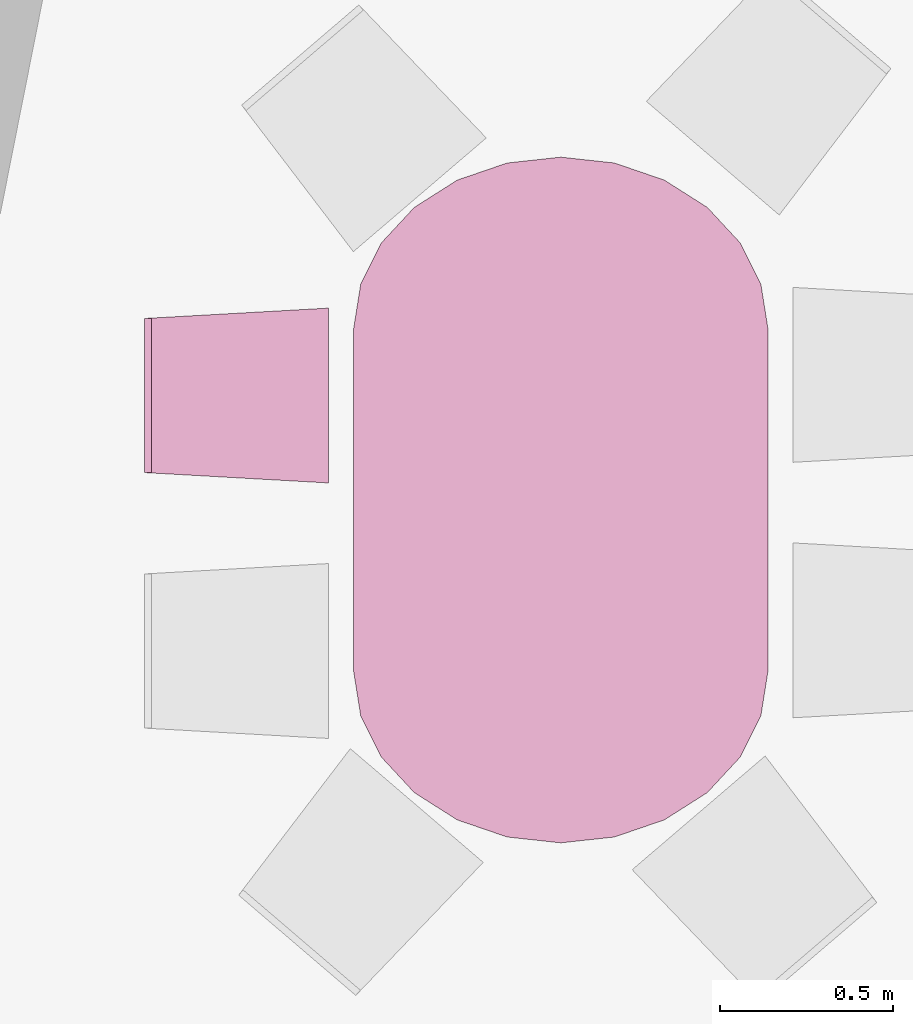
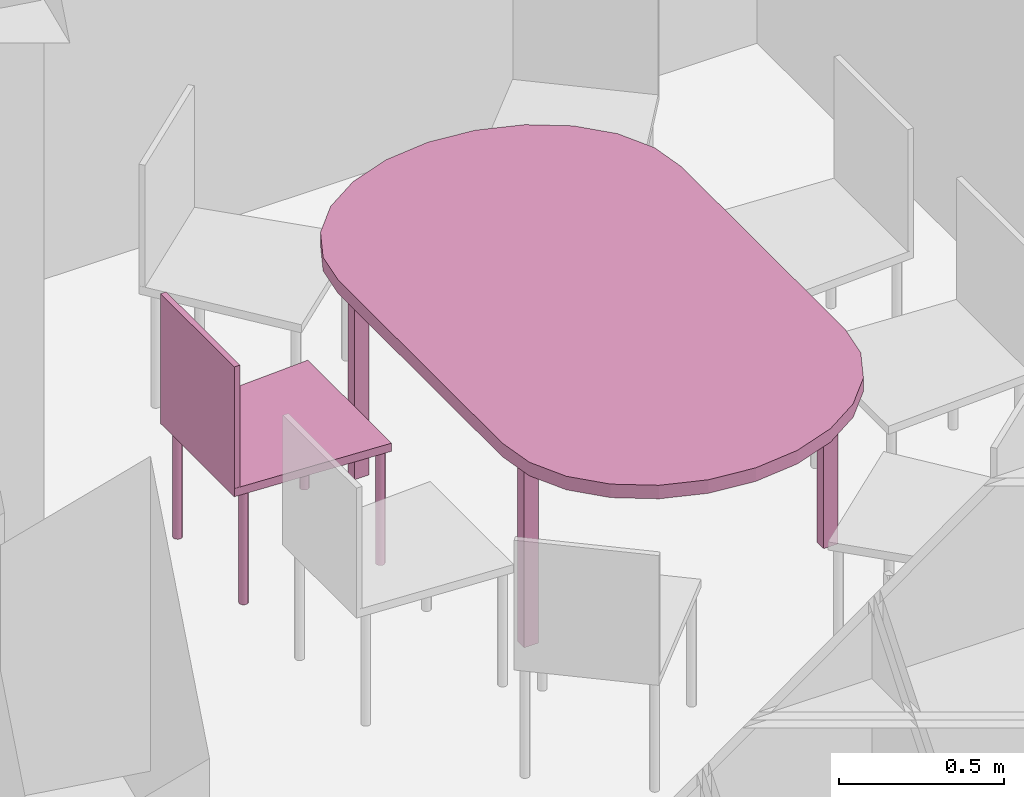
"""IFC4 building model written with IfcOpenShell, lengths in metres."""

from ifc_helpers import new_model, entity, si_unit, converted_unit, derived_unit, frame, origin, place, context, subcontext, project, spatial, faceted_brep, element, save


model = new_model("IFC4")

# Units and contexts
model_context = context("Model", 3, precision=1e-05, world=origin())
body_context = subcontext(model_context, "Body", "Model", "MODEL_VIEW")
ifc_project = project(units=[si_unit("LENGTHUNIT", "METRE"), si_unit("AREAUNIT", "SQUARE_METRE"), si_unit("VOLUMEUNIT", "CUBIC_METRE"), si_unit("MASSUNIT", "GRAM", prefix="KILO"), converted_unit("PLANEANGLEUNIT", "DEGREE", entity("IfcPlaneAngleMeasure", 0.0174532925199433), si_unit("PLANEANGLEUNIT", "RADIAN"), dimensions=[0, 0, 0, 0, 0, 0, 0]), derived_unit("THERMALTRANSMITTANCEUNIT", [(si_unit("POWERUNIT", "WATT"), 1), (si_unit("THERMODYNAMICTEMPERATUREUNIT", "KELVIN"), -1), (si_unit("LENGTHUNIT", "METRE"), -2)]), derived_unit("VOLUMETRICFLOWRATEUNIT", [(si_unit("LENGTHUNIT", "METRE"), 3), (converted_unit("TIMEUNIT", "hour", entity("IfcTimeMeasure", 3600.0), si_unit("TIMEUNIT", "SECOND"), dimensions=[0, 0, 1, 0, 0, 0, 0]), -1), (si_unit("LENGTHUNIT", "METRE"), -1)])], contexts=[model_context])

# Building, storeys
building_placement = place(None, origin())
building = spatial("IfcBuilding", under=ifc_project, at=building_placement, Name="HABITATGE PLURIFAMILIAR", CompositionType="ELEMENT")
storey_1_placement = place(building_placement, frame((0.0, 0.0, 18.29)))
storey_1 = spatial("IfcBuildingStorey", under=building, at=storey_1_placement, Name="PLANTA CINQUENA", CompositionType="ELEMENT", Elevation=18.29)
storey_2_placement = place(storey_1_placement, frame((0.0, 0.0, 15.28)))
storey_2 = spatial("IfcBuildingStorey", under=storey_1, at=storey_2_placement, Name="NOU", CompositionType="PARTIAL")

# Furniture
furniture_1_placement = place(storey_2_placement, frame((402.074235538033, 25.1953221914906, -15.2762411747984)))
element("IfcFurniture", 1, at=furniture_1_placement, inside=storey_2, Name="Taula 200X120_P5", context=body_context, shape_type="Brep", body=[
    faceted_brep([(0.0, 1.48958895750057, 0.7), (0.0, 0.496502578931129, 0.7), (0.0204428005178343, 0.367998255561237, 0.7), (0.0803780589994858, 0.248251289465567, 0.7), (0.175721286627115, 0.14542223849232, 0.7), (0.299974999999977, 0.066518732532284, 0.7), (0.444671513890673, 0.0169179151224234, 0.7), (0.599949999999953, 0.0, 0.7), (0.755228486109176, 0.0169179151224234, 0.7), (0.89992499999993, 0.066518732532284, 0.7), (1.02417871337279, 0.14542223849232, 0.7), (1.11952194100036, 0.248251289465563, 0.7), (1.17945719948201, 0.367998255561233, 0.7), (1.19989999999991, 0.496502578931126, 0.7), (1.19989999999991, 1.48958895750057, 0.7), (1.17945719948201, 1.61809328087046, 0.7), (1.11952194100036, 1.73784024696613, 0.7), (1.02417871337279, 1.84066929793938, 0.7), (0.89992499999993, 1.91957280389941, 0.7), (0.755228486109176, 1.96917362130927, 0.7), (0.599949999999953, 1.9860915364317, 0.7), (0.444671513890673, 1.96917362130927, 0.7), (0.299974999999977, 1.91957280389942, 0.7), (0.175721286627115, 1.84066929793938, 0.7), (0.0803780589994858, 1.73784024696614, 0.7), (0.0204428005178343, 1.61809328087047, 0.7), (1.19989999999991, 1.48958895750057, 0.75), (1.19989999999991, 0.496502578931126, 0.75), (1.17945719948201, 0.367998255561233, 0.75), (1.11952194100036, 0.248251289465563, 0.75), (1.02417871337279, 0.14542223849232, 0.75), (0.89992499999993, 0.066518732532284, 0.75), (0.755228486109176, 0.0169179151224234, 0.75), (0.599949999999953, 0.0, 0.75), (0.444671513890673, 0.0169179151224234, 0.75), (0.299974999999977, 0.066518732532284, 0.75), (0.175721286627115, 0.14542223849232, 0.75), (0.0803780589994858, 0.248251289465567, 0.75), (0.0204428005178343, 0.367998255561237, 0.75), (0.0, 0.496502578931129, 0.75), (0.0, 1.48958895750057, 0.75), (0.0204428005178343, 1.61809328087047, 0.75), (0.0803780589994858, 1.73784024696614, 0.75), (0.175721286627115, 1.84066929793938, 0.75), (0.299974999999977, 1.91957280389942, 0.75), (0.444671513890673, 1.96917362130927, 0.75), (0.599949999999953, 1.9860915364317, 0.75), (0.755228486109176, 1.96917362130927, 0.75), (0.89992499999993, 1.91957280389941, 0.75), (1.02417871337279, 1.84066929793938, 0.75), (1.11952194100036, 1.73784024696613, 0.75), (1.17945719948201, 1.61809328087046, 0.75)], [[[0, 1, 2, 3, 4, 5, 6, 7, 8, 9, 10, 11, 12, 13, 14, 15, 16, 17, 18, 19, 20, 21, 22, 23, 24, 25]], [[26, 27, 28, 29, 30, 31, 32, 33, 34, 35, 36, 37, 38, 39, 40, 41, 42, 43, 44, 45, 46, 47, 48, 49, 50, 51]], [[40, 39, 1, 0]], [[40, 0, 25, 41]], [[41, 25, 24, 42]], [[42, 24, 23, 43]], [[43, 23, 22, 44]], [[44, 22, 21, 45]], [[45, 21, 20, 46]], [[46, 20, 19, 47]], [[47, 19, 18, 48]], [[48, 18, 17, 49]], [[49, 17, 16, 50]], [[50, 16, 15, 51]], [[51, 15, 14, 26]], [[27, 26, 14, 13]], [[27, 13, 12, 28]], [[28, 12, 11, 29]], [[29, 11, 10, 30]], [[30, 10, 9, 31]], [[31, 9, 8, 32]], [[32, 8, 7, 33]], [[33, 7, 6, 34]], [[34, 6, 5, 35]], [[35, 5, 4, 36]], [[36, 4, 3, 37]], [[37, 3, 2, 38]], [[38, 2, 1, 39]]], orient=[[False], [False], [False], [False], [False], [False], [False], [False], [False], [False], [False], [False], [False], [False], [False], [False], [False], [False], [False], [False], [False], [False], [False], [False], [False], [False], [False], [False]]),
    faceted_brep([(1.14989999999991, 0.455123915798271, 0.0), (1.14989999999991, 0.496502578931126, 0.0), (1.09989999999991, 0.496502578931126, 0.0), (1.09989999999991, 0.455123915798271, 0.0), (1.14989999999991, 0.496502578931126, 0.7), (1.14989999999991, 0.455123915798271, 0.7), (1.09989999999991, 0.455123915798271, 0.7), (1.09989999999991, 0.496502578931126, 0.7)], [[[0, 1, 2, 3]], [[4, 5, 6, 7]], [[1, 0, 5, 4]], [[2, 1, 4, 7]], [[3, 2, 7, 6]], [[0, 3, 6, 5]]], orient=[[False], [False], [False], [False], [False], [False]]),
    faceted_brep([(0.102087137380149, 0.455123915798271, 0.0), (0.102087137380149, 0.496502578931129, 0.0), (0.0520871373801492, 0.496502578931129, 0.0), (0.0520871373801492, 0.455123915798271, 0.0), (0.102087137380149, 0.496502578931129, 0.7), (0.102087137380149, 0.455123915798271, 0.7), (0.0520871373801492, 0.455123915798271, 0.7), (0.0520871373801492, 0.496502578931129, 0.7)], [[[0, 1, 2, 3]], [[4, 5, 6, 7]], [[1, 0, 5, 4]], [[2, 1, 4, 7]], [[3, 2, 7, 6]], [[0, 3, 6, 5]]], orient=[[False], [False], [False], [False], [False], [False]]),
    faceted_brep([(0.0520871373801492, 1.48131476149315, 0.0), (0.102087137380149, 1.48131476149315, 0.0), (0.102087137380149, 1.52269342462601, 0.0), (0.0520871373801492, 1.52269342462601, 0.0), (0.0520871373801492, 1.52269342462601, 0.7), (0.102087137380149, 1.52269342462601, 0.7), (0.102087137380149, 1.48131476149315, 0.7), (0.0520871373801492, 1.48131476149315, 0.7)], [[[0, 1, 2, 3]], [[4, 5, 6, 7]], [[3, 4, 7, 0]], [[2, 5, 4, 3]], [[1, 6, 5, 2]], [[0, 7, 6, 1]]], orient=[[False], [False], [False], [False], [False], [False]]),
    faceted_brep([(1.09989999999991, 1.48131476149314, 0.0), (1.14989999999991, 1.48131476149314, 0.0), (1.14989999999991, 1.52269342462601, 0.0), (1.09989999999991, 1.52269342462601, 0.0), (1.09989999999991, 1.52269342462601, 0.7), (1.14989999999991, 1.52269342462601, 0.7), (1.14989999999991, 1.48131476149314, 0.7), (1.09989999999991, 1.48131476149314, 0.7)], [[[0, 1, 2, 3]], [[4, 5, 6, 7]], [[3, 4, 7, 0]], [[2, 5, 4, 3]], [[1, 6, 5, 2]], [[0, 7, 6, 1]]], orient=[[False], [False], [False], [False], [False], [False]]),
])
furniture_2_placement = place(storey_2_placement, frame((401.468889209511, 26.2377028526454, -15.28)))
element("IfcFurniture", 2, at=furniture_2_placement, inside=storey_2, Name="Cadira confident_P5", context=body_context, shape_type="Brep", body=[
    faceted_brep([(0.522448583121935, 0.0242257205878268, 0.0), (0.522221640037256, 0.0268196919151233, 0.0), (0.521547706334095, 0.0293348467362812, 0.0), (0.520447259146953, 0.0316947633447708, 0.0), (0.518953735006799, 0.0338277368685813, 0.0), (0.517112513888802, 0.0356689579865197, 0.0), (0.514979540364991, 0.0371624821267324, 0.0), (0.51261962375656, 0.0382629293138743, 0.0), (0.510104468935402, 0.0389368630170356, 0.0), (0.507510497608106, 0.0391638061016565, 0.0), (0.504916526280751, 0.0389368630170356, 0.0), (0.502401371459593, 0.0382629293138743, 0.0), (0.500041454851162, 0.0371624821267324, 0.0), (0.497908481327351, 0.0356689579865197, 0.0), (0.496067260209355, 0.0338277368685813, 0.0), (0.4945737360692, 0.0316947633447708, 0.0), (0.493473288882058, 0.0293348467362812, 0.0), (0.492799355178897, 0.0268196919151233, 0.0), (0.492572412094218, 0.0242257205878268, 0.0), (0.492799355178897, 0.0216317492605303, 0.0), (0.493473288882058, 0.0191165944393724, 0.0), (0.4945737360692, 0.0167566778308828, 0.0), (0.496067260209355, 0.0146237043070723, 0.0), (0.497908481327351, 0.0127824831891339, 0.0), (0.500041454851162, 0.0112889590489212, 0.0), (0.502401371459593, 0.0101885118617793, 0.0), (0.504916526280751, 0.00951457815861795, 0.0), (0.507510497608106, 0.00928763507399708, 0.0), (0.510104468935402, 0.00951457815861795, 0.0), (0.51261962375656, 0.0101885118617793, 0.0), (0.514979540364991, 0.0112889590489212, 0.0), (0.517112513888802, 0.0127824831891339, 0.0), (0.518953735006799, 0.0146237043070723, 0.0), (0.520447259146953, 0.0167566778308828, 0.0), (0.521547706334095, 0.0191165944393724, 0.0), (0.522221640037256, 0.0216317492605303, 0.0), (0.522448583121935, 0.0242257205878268, 0.448281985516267), (0.522221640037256, 0.0216317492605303, 0.448281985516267), (0.521547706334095, 0.0191165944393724, 0.448281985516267), (0.520447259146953, 0.0167566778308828, 0.448281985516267), (0.518953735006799, 0.0146237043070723, 0.448281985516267), (0.517112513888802, 0.0127824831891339, 0.448281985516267), (0.514979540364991, 0.0112889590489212, 0.448281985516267), (0.51261962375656, 0.0101885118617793, 0.448281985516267), (0.510104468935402, 0.00951457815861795, 0.448281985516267), (0.507510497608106, 0.00928763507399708, 0.448281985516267), (0.504916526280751, 0.00951457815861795, 0.448281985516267), (0.502401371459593, 0.0101885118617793, 0.448281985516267), (0.500041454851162, 0.0112889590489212, 0.448281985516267), (0.497908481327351, 0.0127824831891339, 0.448281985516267), (0.496067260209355, 0.0146237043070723, 0.448281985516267), (0.4945737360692, 0.0167566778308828, 0.448281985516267), (0.493473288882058, 0.0191165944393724, 0.448281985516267), (0.492799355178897, 0.0216317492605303, 0.448281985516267), (0.492572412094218, 0.0242257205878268, 0.448281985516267), (0.492799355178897, 0.0268196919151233, 0.448281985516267), (0.493473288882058, 0.0293348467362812, 0.448281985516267), (0.4945737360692, 0.0316947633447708, 0.448281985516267), (0.496067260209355, 0.0338277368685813, 0.448281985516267), (0.497908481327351, 0.0356689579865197, 0.448281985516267), (0.500041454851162, 0.0371624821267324, 0.448281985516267), (0.502401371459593, 0.0382629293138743, 0.448281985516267), (0.504916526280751, 0.0389368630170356, 0.448281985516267), (0.507510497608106, 0.0391638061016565, 0.448281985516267), (0.510104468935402, 0.0389368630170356, 0.448281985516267), (0.51261962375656, 0.0382629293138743, 0.448281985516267), (0.514979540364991, 0.0371624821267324, 0.448281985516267), (0.517112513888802, 0.0356689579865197, 0.448281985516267), (0.518953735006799, 0.0338277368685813, 0.448281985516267), (0.520447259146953, 0.0316947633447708, 0.448281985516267), (0.521547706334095, 0.0293348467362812, 0.448281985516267), (0.522221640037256, 0.0268196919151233, 0.448281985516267)], [[[0, 1, 2, 3, 4, 5, 6, 7, 8, 9, 10, 11, 12, 13, 14, 15, 16, 17, 18, 19, 20, 21, 22, 23, 24, 25, 26, 27, 28, 29, 30, 31, 32, 33, 34, 35]], [[36, 37, 38, 39, 40, 41, 42, 43, 44, 45, 46, 47, 48, 49, 50, 51, 52, 53, 54, 55, 56, 57, 58, 59, 60, 61, 62, 63, 64, 65, 66, 67, 68, 69, 70, 71]], [[1, 0, 36, 71]], [[2, 1, 71, 70]], [[3, 2, 70, 69]], [[4, 3, 69, 68]], [[5, 4, 68, 67]], [[6, 5, 67, 66]], [[7, 6, 66, 65]], [[8, 7, 65, 64]], [[9, 8, 64, 63]], [[10, 9, 63, 62]], [[11, 10, 62, 61]], [[12, 11, 61, 60]], [[13, 12, 60, 59]], [[14, 13, 59, 58]], [[15, 14, 58, 57]], [[16, 15, 57, 56]], [[17, 16, 56, 55]], [[18, 17, 55, 54]], [[19, 18, 54, 53]], [[20, 19, 53, 52]], [[21, 20, 52, 51]], [[22, 21, 51, 50]], [[23, 22, 50, 49]], [[24, 23, 49, 48]], [[25, 24, 48, 47]], [[26, 25, 47, 46]], [[27, 26, 46, 45]], [[28, 27, 45, 44]], [[29, 28, 44, 43]], [[30, 29, 43, 42]], [[31, 30, 42, 41]], [[32, 31, 41, 40]], [[33, 32, 40, 39]], [[34, 33, 39, 38]], [[35, 34, 38, 37]], [[0, 35, 37, 36]]], orient=[[False], [False], [False], [False], [False], [False], [False], [False], [False], [False], [False], [False], [False], [False], [False], [False], [False], [False], [False], [False], [False], [False], [False], [False], [False], [False], [False], [False], [False], [False], [False], [False], [False], [False], [False], [False], [False], [False]]),
    faceted_brep([(0.060041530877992, 0.0518637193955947, 0.0), (0.059814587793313, 0.0544576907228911, 0.0), (0.0591406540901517, 0.056972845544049, 0.0), (0.0580402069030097, 0.0593327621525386, 0.0), (0.0565466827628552, 0.0614657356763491, 0.0), (0.0547054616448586, 0.0633069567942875, 0.0), (0.0525724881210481, 0.0648004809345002, 0.0), (0.0502125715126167, 0.0659009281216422, 0.0), (0.0476974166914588, 0.0665748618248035, 0.0), (0.0451034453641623, 0.0668018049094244, 0.0), (0.0425094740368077, 0.0665748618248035, 0.0), (0.0399943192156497, 0.0659009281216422, 0.0), (0.0376344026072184, 0.0648004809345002, 0.0), (0.0355014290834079, 0.0633069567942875, 0.0), (0.0336602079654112, 0.0614657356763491, 0.0), (0.0321666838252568, 0.0593327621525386, 0.0), (0.0310662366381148, 0.056972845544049, 0.0), (0.0303923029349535, 0.0544576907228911, 0.0), (0.0301653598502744, 0.0518637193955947, 0.0), (0.0303923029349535, 0.0492697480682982, 0.0), (0.0310662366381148, 0.0467545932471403, 0.0), (0.0321666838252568, 0.0443946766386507, 0.0), (0.0336602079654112, 0.0422617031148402, 0.0), (0.0355014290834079, 0.0404204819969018, 0.0), (0.0376344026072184, 0.0389269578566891, 0.0), (0.0399943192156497, 0.0378265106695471, 0.0), (0.0425094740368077, 0.0371525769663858, 0.0), (0.0451034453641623, 0.036925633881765, 0.0), (0.0476974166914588, 0.0371525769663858, 0.0), (0.0502125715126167, 0.0378265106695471, 0.0), (0.0525724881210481, 0.0389269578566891, 0.0), (0.0547054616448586, 0.0404204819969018, 0.0), (0.0565466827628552, 0.0422617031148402, 0.0), (0.0580402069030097, 0.0443946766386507, 0.0), (0.0591406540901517, 0.0467545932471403, 0.0), (0.059814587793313, 0.0492697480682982, 0.0), (0.060041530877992, 0.0518637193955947, 0.448281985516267), (0.059814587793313, 0.0492697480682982, 0.448281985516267), (0.0591406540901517, 0.0467545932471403, 0.448281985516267), (0.0580402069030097, 0.0443946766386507, 0.448281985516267), (0.0565466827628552, 0.0422617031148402, 0.448281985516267), (0.0547054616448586, 0.0404204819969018, 0.448281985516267), (0.0525724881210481, 0.0389269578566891, 0.448281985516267), (0.0502125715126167, 0.0378265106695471, 0.448281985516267), (0.0476974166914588, 0.0371525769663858, 0.448281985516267), (0.0451034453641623, 0.036925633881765, 0.448281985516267), (0.0425094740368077, 0.0371525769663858, 0.448281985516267), (0.0399943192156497, 0.0378265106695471, 0.448281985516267), (0.0376344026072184, 0.0389269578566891, 0.448281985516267), (0.0355014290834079, 0.0404204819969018, 0.448281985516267), (0.0336602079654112, 0.0422617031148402, 0.448281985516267), (0.0321666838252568, 0.0443946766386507, 0.448281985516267), (0.0310662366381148, 0.0467545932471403, 0.448281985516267), (0.0303923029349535, 0.0492697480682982, 0.448281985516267), (0.0301653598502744, 0.0518637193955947, 0.448281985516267), (0.0303923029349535, 0.0544576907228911, 0.448281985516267), (0.0310662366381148, 0.056972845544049, 0.448281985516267), (0.0321666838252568, 0.0593327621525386, 0.448281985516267), (0.0336602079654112, 0.0614657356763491, 0.448281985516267), (0.0355014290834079, 0.0633069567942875, 0.448281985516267), (0.0376344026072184, 0.0648004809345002, 0.448281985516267), (0.0399943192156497, 0.0659009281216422, 0.448281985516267), (0.0425094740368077, 0.0665748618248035, 0.448281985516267), (0.0451034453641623, 0.0668018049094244, 0.448281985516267), (0.0476974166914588, 0.0665748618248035, 0.448281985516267), (0.0502125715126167, 0.0659009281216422, 0.448281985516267), (0.0525724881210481, 0.0648004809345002, 0.448281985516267), (0.0547054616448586, 0.0633069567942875, 0.448281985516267), (0.0565466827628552, 0.0614657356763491, 0.448281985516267), (0.0580402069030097, 0.0593327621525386, 0.448281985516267), (0.0591406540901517, 0.056972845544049, 0.448281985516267), (0.059814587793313, 0.0544576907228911, 0.448281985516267)], [[[0, 1, 2, 3, 4, 5, 6, 7, 8, 9, 10, 11, 12, 13, 14, 15, 16, 17, 18, 19, 20, 21, 22, 23, 24, 25, 26, 27, 28, 29, 30, 31, 32, 33, 34, 35]], [[36, 37, 38, 39, 40, 41, 42, 43, 44, 45, 46, 47, 48, 49, 50, 51, 52, 53, 54, 55, 56, 57, 58, 59, 60, 61, 62, 63, 64, 65, 66, 67, 68, 69, 70, 71]], [[1, 0, 36, 71]], [[2, 1, 71, 70]], [[3, 2, 70, 69]], [[4, 3, 69, 68]], [[5, 4, 68, 67]], [[6, 5, 67, 66]], [[7, 6, 66, 65]], [[8, 7, 65, 64]], [[9, 8, 64, 63]], [[10, 9, 63, 62]], [[11, 10, 62, 61]], [[12, 11, 61, 60]], [[13, 12, 60, 59]], [[14, 13, 59, 58]], [[15, 14, 58, 57]], [[16, 15, 57, 56]], [[17, 16, 56, 55]], [[18, 17, 55, 54]], [[19, 18, 54, 53]], [[20, 19, 53, 52]], [[21, 20, 52, 51]], [[22, 21, 51, 50]], [[23, 22, 50, 49]], [[24, 23, 49, 48]], [[25, 24, 48, 47]], [[26, 25, 47, 46]], [[27, 26, 46, 45]], [[28, 27, 45, 44]], [[29, 28, 44, 43]], [[30, 29, 43, 42]], [[31, 30, 42, 41]], [[32, 31, 41, 40]], [[33, 32, 40, 39]], [[34, 33, 39, 38]], [[35, 34, 38, 37]], [[0, 35, 37, 36]]], orient=[[False], [False], [False], [False], [False], [False], [False], [False], [False], [False], [False], [False], [False], [False], [False], [False], [False], [False], [False], [False], [False], [False], [False], [False], [False], [False], [False], [False], [False], [False], [False], [False], [False], [False], [False], [False], [False], [False]]),
    faceted_brep([(0.522448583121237, 0.484225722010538, 0.0), (0.522221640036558, 0.486819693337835, 0.0), (0.521547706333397, 0.489334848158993, 0.0), (0.520447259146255, 0.491694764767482, 0.0), (0.5189537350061, 0.493827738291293, 0.0), (0.517112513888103, 0.495668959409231, 0.0), (0.514979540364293, 0.497162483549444, 0.0), (0.512619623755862, 0.498262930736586, 0.0), (0.510104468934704, 0.498936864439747, 0.0), (0.507510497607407, 0.499163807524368, 0.0), (0.504916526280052, 0.498936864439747, 0.0), (0.502401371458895, 0.498262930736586, 0.0), (0.500041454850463, 0.497162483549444, 0.0), (0.497908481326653, 0.495668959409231, 0.0), (0.496067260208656, 0.493827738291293, 0.0), (0.494573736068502, 0.491694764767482, 0.0), (0.49347328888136, 0.489334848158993, 0.0), (0.492799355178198, 0.486819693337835, 0.0), (0.492572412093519, 0.484225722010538, 0.0), (0.492799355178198, 0.481631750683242, 0.0), (0.49347328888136, 0.479116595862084, 0.0), (0.494573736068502, 0.476756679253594, 0.0), (0.496067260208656, 0.474623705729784, 0.0), (0.497908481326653, 0.472782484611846, 0.0), (0.500041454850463, 0.471288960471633, 0.0), (0.502401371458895, 0.470188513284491, 0.0), (0.504916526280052, 0.46951457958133, 0.0), (0.507510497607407, 0.469287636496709, 0.0), (0.510104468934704, 0.46951457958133, 0.0), (0.512619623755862, 0.470188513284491, 0.0), (0.514979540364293, 0.471288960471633, 0.0), (0.517112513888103, 0.472782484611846, 0.0), (0.5189537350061, 0.474623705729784, 0.0), (0.520447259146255, 0.476756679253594, 0.0), (0.521547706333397, 0.479116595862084, 0.0), (0.522221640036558, 0.481631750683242, 0.0), (0.522448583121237, 0.484225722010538, 0.448281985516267), (0.522221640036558, 0.481631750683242, 0.448281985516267), (0.521547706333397, 0.479116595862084, 0.448281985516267), (0.520447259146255, 0.476756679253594, 0.448281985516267), (0.5189537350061, 0.474623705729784, 0.448281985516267), (0.517112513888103, 0.472782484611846, 0.448281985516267), (0.514979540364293, 0.471288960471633, 0.448281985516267), (0.512619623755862, 0.470188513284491, 0.448281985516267), (0.510104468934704, 0.46951457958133, 0.448281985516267), (0.507510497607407, 0.469287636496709, 0.448281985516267), (0.504916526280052, 0.46951457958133, 0.448281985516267), (0.502401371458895, 0.470188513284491, 0.448281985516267), (0.500041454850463, 0.471288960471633, 0.448281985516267), (0.497908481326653, 0.472782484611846, 0.448281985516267), (0.496067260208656, 0.474623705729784, 0.448281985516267), (0.494573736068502, 0.476756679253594, 0.448281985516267), (0.49347328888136, 0.479116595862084, 0.448281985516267), (0.492799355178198, 0.481631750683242, 0.448281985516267), (0.492572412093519, 0.484225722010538, 0.448281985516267), (0.492799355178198, 0.486819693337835, 0.448281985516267), (0.49347328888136, 0.489334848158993, 0.448281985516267), (0.494573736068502, 0.491694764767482, 0.448281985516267), (0.496067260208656, 0.493827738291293, 0.448281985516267), (0.497908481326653, 0.495668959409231, 0.448281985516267), (0.500041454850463, 0.497162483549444, 0.448281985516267), (0.502401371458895, 0.498262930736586, 0.448281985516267), (0.504916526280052, 0.498936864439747, 0.448281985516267), (0.507510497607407, 0.499163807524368, 0.448281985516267), (0.510104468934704, 0.498936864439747, 0.448281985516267), (0.512619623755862, 0.498262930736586, 0.448281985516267), (0.514979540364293, 0.497162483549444, 0.448281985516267), (0.517112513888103, 0.495668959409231, 0.448281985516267), (0.5189537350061, 0.493827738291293, 0.448281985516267), (0.520447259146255, 0.491694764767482, 0.448281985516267), (0.521547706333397, 0.489334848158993, 0.448281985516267), (0.522221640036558, 0.486819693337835, 0.448281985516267)], [[[0, 1, 2, 3, 4, 5, 6, 7, 8, 9, 10, 11, 12, 13, 14, 15, 16, 17, 18, 19, 20, 21, 22, 23, 24, 25, 26, 27, 28, 29, 30, 31, 32, 33, 34, 35]], [[36, 37, 38, 39, 40, 41, 42, 43, 44, 45, 46, 47, 48, 49, 50, 51, 52, 53, 54, 55, 56, 57, 58, 59, 60, 61, 62, 63, 64, 65, 66, 67, 68, 69, 70, 71]], [[1, 0, 36, 71]], [[2, 1, 71, 70]], [[3, 2, 70, 69]], [[4, 3, 69, 68]], [[5, 4, 68, 67]], [[6, 5, 67, 66]], [[7, 6, 66, 65]], [[8, 7, 65, 64]], [[9, 8, 64, 63]], [[10, 9, 63, 62]], [[11, 10, 62, 61]], [[12, 11, 61, 60]], [[13, 12, 60, 59]], [[14, 13, 59, 58]], [[15, 14, 58, 57]], [[16, 15, 57, 56]], [[17, 16, 56, 55]], [[18, 17, 55, 54]], [[19, 18, 54, 53]], [[20, 19, 53, 52]], [[21, 20, 52, 51]], [[22, 21, 51, 50]], [[23, 22, 50, 49]], [[24, 23, 49, 48]], [[25, 24, 48, 47]], [[26, 25, 47, 46]], [[27, 26, 46, 45]], [[28, 27, 45, 44]], [[29, 28, 44, 43]], [[30, 29, 43, 42]], [[31, 30, 42, 41]], [[32, 31, 41, 40]], [[33, 32, 40, 39]], [[34, 33, 39, 38]], [[35, 34, 38, 37]], [[0, 35, 37, 36]]], orient=[[False], [False], [False], [False], [False], [False], [False], [False], [False], [False], [False], [False], [False], [False], [False], [False], [False], [False], [False], [False], [False], [False], [False], [False], [False], [False], [False], [False], [False], [False], [False], [False], [False], [False], [False], [False], [False], [False]]),
    faceted_brep([(0.0600415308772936, 0.451863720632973, 0.0), (0.0598145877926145, 0.45445769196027, 0.0), (0.0591406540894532, 0.456972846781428, 0.0), (0.0580402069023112, 0.459332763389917, 0.0), (0.0565466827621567, 0.461465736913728, 0.0), (0.0547054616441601, 0.463306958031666, 0.0), (0.0525724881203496, 0.464800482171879, 0.0), (0.0502125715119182, 0.465900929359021, 0.0), (0.0476974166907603, 0.466574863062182, 0.0), (0.0451034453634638, 0.466801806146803, 0.0), (0.0425094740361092, 0.466574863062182, 0.0), (0.0399943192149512, 0.465900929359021, 0.0), (0.0376344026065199, 0.464800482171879, 0.0), (0.0355014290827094, 0.463306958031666, 0.0), (0.0336602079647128, 0.461465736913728, 0.0), (0.0321666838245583, 0.459332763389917, 0.0), (0.0310662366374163, 0.456972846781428, 0.0), (0.030392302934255, 0.45445769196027, 0.0), (0.0301653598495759, 0.451863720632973, 0.0), (0.030392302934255, 0.449269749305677, 0.0), (0.0310662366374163, 0.446754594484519, 0.0), (0.0321666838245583, 0.444394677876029, 0.0), (0.0336602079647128, 0.442261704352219, 0.0), (0.0355014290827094, 0.44042048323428, 0.0), (0.0376344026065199, 0.438926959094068, 0.0), (0.0399943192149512, 0.437826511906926, 0.0), (0.0425094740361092, 0.437152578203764, 0.0), (0.0451034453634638, 0.436925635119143, 0.0), (0.0476974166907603, 0.437152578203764, 0.0), (0.0502125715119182, 0.437826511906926, 0.0), (0.0525724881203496, 0.438926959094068, 0.0), (0.0547054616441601, 0.44042048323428, 0.0), (0.0565466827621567, 0.442261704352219, 0.0), (0.0580402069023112, 0.444394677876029, 0.0), (0.0591406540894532, 0.446754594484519, 0.0), (0.0598145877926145, 0.449269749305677, 0.0), (0.0600415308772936, 0.451863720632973, 0.448281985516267), (0.0598145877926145, 0.449269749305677, 0.448281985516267), (0.0591406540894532, 0.446754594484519, 0.448281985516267), (0.0580402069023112, 0.444394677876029, 0.448281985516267), (0.0565466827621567, 0.442261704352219, 0.448281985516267), (0.0547054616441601, 0.44042048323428, 0.448281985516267), (0.0525724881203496, 0.438926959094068, 0.448281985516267), (0.0502125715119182, 0.437826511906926, 0.448281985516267), (0.0476974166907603, 0.437152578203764, 0.448281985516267), (0.0451034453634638, 0.436925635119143, 0.448281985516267), (0.0425094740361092, 0.437152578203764, 0.448281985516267), (0.0399943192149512, 0.437826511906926, 0.448281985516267), (0.0376344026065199, 0.438926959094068, 0.448281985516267), (0.0355014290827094, 0.44042048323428, 0.448281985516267), (0.0336602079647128, 0.442261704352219, 0.448281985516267), (0.0321666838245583, 0.444394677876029, 0.448281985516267), (0.0310662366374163, 0.446754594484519, 0.448281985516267), (0.030392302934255, 0.449269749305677, 0.448281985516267), (0.0301653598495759, 0.451863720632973, 0.448281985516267), (0.030392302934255, 0.45445769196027, 0.448281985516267), (0.0310662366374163, 0.456972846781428, 0.448281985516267), (0.0321666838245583, 0.459332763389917, 0.448281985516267), (0.0336602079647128, 0.461465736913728, 0.448281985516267), (0.0355014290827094, 0.463306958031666, 0.448281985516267), (0.0376344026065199, 0.464800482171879, 0.448281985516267), (0.0399943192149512, 0.465900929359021, 0.448281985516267), (0.0425094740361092, 0.466574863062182, 0.448281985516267), (0.0451034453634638, 0.466801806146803, 0.448281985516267), (0.0476974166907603, 0.466574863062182, 0.448281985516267), (0.0502125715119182, 0.465900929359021, 0.448281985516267), (0.0525724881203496, 0.464800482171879, 0.448281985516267), (0.0547054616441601, 0.463306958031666, 0.448281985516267), (0.0565466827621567, 0.461465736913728, 0.448281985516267), (0.0580402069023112, 0.459332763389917, 0.448281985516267), (0.0591406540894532, 0.456972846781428, 0.448281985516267), (0.0598145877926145, 0.45445769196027, 0.448281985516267)], [[[0, 1, 2, 3, 4, 5, 6, 7, 8, 9, 10, 11, 12, 13, 14, 15, 16, 17, 18, 19, 20, 21, 22, 23, 24, 25, 26, 27, 28, 29, 30, 31, 32, 33, 34, 35]], [[36, 37, 38, 39, 40, 41, 42, 43, 44, 45, 46, 47, 48, 49, 50, 51, 52, 53, 54, 55, 56, 57, 58, 59, 60, 61, 62, 63, 64, 65, 66, 67, 68, 69, 70, 71]], [[1, 0, 36, 71]], [[2, 1, 71, 70]], [[3, 2, 70, 69]], [[4, 3, 69, 68]], [[5, 4, 68, 67]], [[6, 5, 67, 66]], [[7, 6, 66, 65]], [[8, 7, 65, 64]], [[9, 8, 64, 63]], [[10, 9, 63, 62]], [[11, 10, 62, 61]], [[12, 11, 61, 60]], [[13, 12, 60, 59]], [[14, 13, 59, 58]], [[15, 14, 58, 57]], [[16, 15, 57, 56]], [[17, 16, 56, 55]], [[18, 17, 55, 54]], [[19, 18, 54, 53]], [[20, 19, 53, 52]], [[21, 20, 52, 51]], [[22, 21, 51, 50]], [[23, 22, 50, 49]], [[24, 23, 49, 48]], [[25, 24, 48, 47]], [[26, 25, 47, 46]], [[27, 26, 46, 45]], [[28, 27, 45, 44]], [[29, 28, 44, 43]], [[30, 29, 43, 42]], [[31, 30, 42, 41]], [[32, 31, 41, 40]], [[33, 32, 40, 39]], [[34, 33, 39, 38]], [[35, 34, 38, 37]], [[0, 35, 37, 36]]], orient=[[False], [False], [False], [False], [False], [False], [False], [False], [False], [False], [False], [False], [False], [False], [False], [False], [False], [False], [False], [False], [False], [False], [False], [False], [False], [False], [False], [False], [False], [False], [False], [False], [False], [False], [False], [False], [False], [False]]),
    faceted_brep([(0.0, 0.4765147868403, 0.41828198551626), (0.0, 0.0300000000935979, 0.41828198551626), (0.532607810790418, 0.0, 0.41828198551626), (0.532607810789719, 0.506514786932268, 0.41828198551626), (0.532607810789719, 0.506514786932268, 0.448281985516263), (0.532607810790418, 0.0, 0.448281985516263), (0.0, 0.0300000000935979, 0.448281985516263), (0.0, 0.4765147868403, 0.448281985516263)], [[[0, 1, 2, 3]], [[4, 5, 6, 7]], [[3, 4, 7, 0]], [[2, 5, 4, 3]], [[1, 6, 5, 2]], [[0, 7, 6, 1]]], orient=[[False], [False], [False], [False], [False], [False]]),
    faceted_brep([(0.0200000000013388, 0.4765147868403, 0.448281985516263), (0.0, 0.4765147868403, 0.448281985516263), (0.0, 0.0300000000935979, 0.448281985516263), (0.0200000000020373, 0.0300000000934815, 0.448281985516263), (0.0200000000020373, 0.0300000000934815, 0.898281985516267), (0.0, 0.0300000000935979, 0.898281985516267), (0.0, 0.4765147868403, 0.898281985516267), (0.0200000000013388, 0.4765147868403, 0.898281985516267)], [[[0, 1, 2, 3]], [[4, 5, 6, 7]], [[3, 4, 7, 0]], [[2, 5, 4, 3]], [[1, 6, 5, 2]], [[0, 7, 6, 1]]], orient=[[False], [False], [False], [False], [False], [False]]),
])

save(model, "model.ifc")
